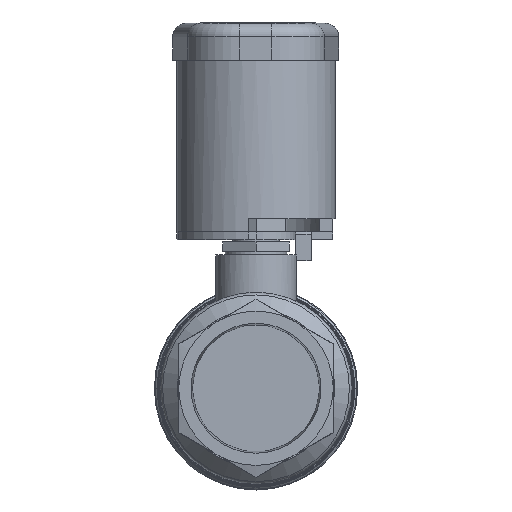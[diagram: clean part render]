
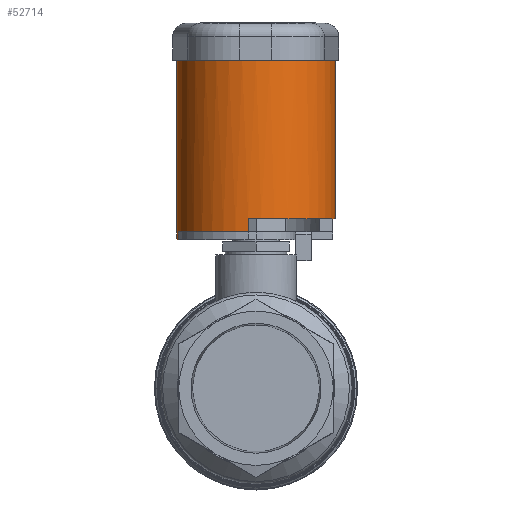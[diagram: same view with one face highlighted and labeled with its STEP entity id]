
A CAD part, left-side view. The second image highlights one B-rep face of the part: STEP entity #52714.
In plain terms, the highlighted cylindrical face has radius 1.11 mm (diameter 2.221 mm), a partial arc.
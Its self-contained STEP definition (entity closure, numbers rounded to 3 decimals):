
#52714 = ADVANCED_FACE('',(#52715),#52729,.T.);
#52715 = FACE_BOUND('',#52716,.T.);
#52716 = EDGE_LOOP('',(#52717,#52762,#52779,#52795,#52812,#52828,#52845,
    #52861,#52878,#52894));
#52717 = ORIENTED_EDGE('',*,*,#52718,.F.);
#52718 = EDGE_CURVE('',#52719,#52721,#52723,.T.);
#52719 = VERTEX_POINT('',#52720);
#52720 = CARTESIAN_POINT('',(2.084,1.11,2.195
    ));
#52721 = VERTEX_POINT('',#52722);
#52722 = CARTESIAN_POINT('',(2.084,1.11,
    4.601));
#52723 = SURFACE_CURVE('',#52724,(#52728),.PCURVE_S1.);
#52724 = LINE('',#52725,#52726);
#52725 = CARTESIAN_POINT('',(2.084,1.11,2.195
    ));
#52726 = VECTOR('',#52727,1.);
#52727 = DIRECTION('',(0.,0.,1.));
#52728 = PCURVE('',#52729,#52734);
#52729 = CYLINDRICAL_SURFACE('',#52730,1.11);
#52730 = AXIS2_PLACEMENT_3D('',#52731,#52732,#52733);
#52731 = CARTESIAN_POINT('',(2.084,0.,
    2.195));
#52732 = DIRECTION('',(0.,0.,1.));
#52733 = DIRECTION('',(0.,1.,0.));
#52734 = DEFINITIONAL_REPRESENTATION('',(#52735),#52761);
#52735 = B_SPLINE_CURVE_WITH_KNOTS('',3,(#52736,#52737,#52738,#52739,
    #52740,#52741,#52742,#52743,#52744,#52745,#52746,#52747,#52748,
    #52749,#52750,#52751,#52752,#52753,#52754,#52755,#52756,#52757,
    #52758,#52759,#52760),.UNSPECIFIED.,.F.,.F.,(4,1,1,1,1,1,1,1,1,1,1,1
    ,1,1,1,1,1,1,1,1,1,1,4),(0.,0.109,0.219,
    0.328,0.437,0.547,0.656,
    0.766,0.875,0.984,1.094,
    1.203,1.312,1.422,1.531,
    1.64,1.75,1.859,1.968,
    2.078,2.187,2.297,2.406),
  .QUASI_UNIFORM_KNOTS.);
#52736 = CARTESIAN_POINT('',(0.,0.));
#52737 = CARTESIAN_POINT('',(0.,0.036));
#52738 = CARTESIAN_POINT('',(0.,0.109));
#52739 = CARTESIAN_POINT('',(0.,0.219));
#52740 = CARTESIAN_POINT('',(0.,0.328));
#52741 = CARTESIAN_POINT('',(0.,0.437));
#52742 = CARTESIAN_POINT('',(0.,0.547));
#52743 = CARTESIAN_POINT('',(0.,0.656));
#52744 = CARTESIAN_POINT('',(0.,0.766));
#52745 = CARTESIAN_POINT('',(0.,0.875));
#52746 = CARTESIAN_POINT('',(0.,0.984));
#52747 = CARTESIAN_POINT('',(0.,1.094));
#52748 = CARTESIAN_POINT('',(0.,1.203));
#52749 = CARTESIAN_POINT('',(0.,1.312));
#52750 = CARTESIAN_POINT('',(0.,1.422));
#52751 = CARTESIAN_POINT('',(0.,1.531));
#52752 = CARTESIAN_POINT('',(0.,1.64));
#52753 = CARTESIAN_POINT('',(0.,1.75));
#52754 = CARTESIAN_POINT('',(0.,1.859));
#52755 = CARTESIAN_POINT('',(0.,1.968));
#52756 = CARTESIAN_POINT('',(0.,2.078));
#52757 = CARTESIAN_POINT('',(0.,2.187));
#52758 = CARTESIAN_POINT('',(0.,2.297));
#52759 = CARTESIAN_POINT('',(0.,2.369));
#52760 = CARTESIAN_POINT('',(0.,2.406));
#52761 = ( GEOMETRIC_REPRESENTATION_CONTEXT(2) 
PARAMETRIC_REPRESENTATION_CONTEXT() REPRESENTATION_CONTEXT('2D SPACE',''
  ) );
#52762 = ORIENTED_EDGE('',*,*,#52763,.T.);
#52763 = EDGE_CURVE('',#52719,#52764,#52766,.T.);
#52764 = VERTEX_POINT('',#52765);
#52765 = CARTESIAN_POINT('',(2.276,1.093,2.195
    ));
#52766 = SURFACE_CURVE('',#52767,(#52772),.PCURVE_S1.);
#52767 = CIRCLE('',#52768,1.11);
#52768 = AXIS2_PLACEMENT_3D('',#52769,#52770,#52771);
#52769 = CARTESIAN_POINT('',(2.084,0.,
    2.195));
#52770 = DIRECTION('',(0.,0.,-1.));
#52771 = DIRECTION('',(0.,1.,0.));
#52772 = PCURVE('',#52729,#52773);
#52773 = DEFINITIONAL_REPRESENTATION('',(#52774),#52778);
#52774 = LINE('',#52775,#52776);
#52775 = CARTESIAN_POINT('',(0.,0.));
#52776 = VECTOR('',#52777,1.);
#52777 = DIRECTION('',(-1.,0.));
#52778 = ( GEOMETRIC_REPRESENTATION_CONTEXT(2) 
PARAMETRIC_REPRESENTATION_CONTEXT() REPRESENTATION_CONTEXT('2D SPACE',''
  ) );
#52779 = ORIENTED_EDGE('',*,*,#52780,.T.);
#52780 = EDGE_CURVE('',#52764,#52781,#52783,.T.);
#52781 = VERTEX_POINT('',#52782);
#52782 = CARTESIAN_POINT('',(2.276,1.093,2.084));
#52783 = SURFACE_CURVE('',#52784,(#52788),.PCURVE_S1.);
#52784 = LINE('',#52785,#52786);
#52785 = CARTESIAN_POINT('',(2.276,1.093,2.195
    ));
#52786 = VECTOR('',#52787,1.);
#52787 = DIRECTION('',(0.,0.,-1.));
#52788 = PCURVE('',#52729,#52789);
#52789 = DEFINITIONAL_REPRESENTATION('',(#52790),#52794);
#52790 = LINE('',#52791,#52792);
#52791 = CARTESIAN_POINT('',(-0.175,0.));
#52792 = VECTOR('',#52793,1.);
#52793 = DIRECTION('',(0.,-1.));
#52794 = ( GEOMETRIC_REPRESENTATION_CONTEXT(2) 
PARAMETRIC_REPRESENTATION_CONTEXT() REPRESENTATION_CONTEXT('2D SPACE',''
  ) );
#52795 = ORIENTED_EDGE('',*,*,#52796,.F.);
#52796 = EDGE_CURVE('',#52797,#52781,#52799,.T.);
#52797 = VERTEX_POINT('',#52798);
#52798 = CARTESIAN_POINT('',(1.891,1.093,2.084));
#52799 = SURFACE_CURVE('',#52800,(#52805),.PCURVE_S1.);
#52800 = CIRCLE('',#52801,1.11);
#52801 = AXIS2_PLACEMENT_3D('',#52802,#52803,#52804);
#52802 = CARTESIAN_POINT('',(2.084,0.,2.084)
  );
#52803 = DIRECTION('',(0.,0.,-1.));
#52804 = DIRECTION('',(-0.174,0.985,0.
    ));
#52805 = PCURVE('',#52729,#52806);
#52806 = DEFINITIONAL_REPRESENTATION('',(#52807),#52811);
#52807 = LINE('',#52808,#52809);
#52808 = CARTESIAN_POINT('',(0.175,-0.111));
#52809 = VECTOR('',#52810,1.);
#52810 = DIRECTION('',(-1.,0.));
#52811 = ( GEOMETRIC_REPRESENTATION_CONTEXT(2) 
PARAMETRIC_REPRESENTATION_CONTEXT() REPRESENTATION_CONTEXT('2D SPACE',''
  ) );
#52812 = ORIENTED_EDGE('',*,*,#52813,.F.);
#52813 = EDGE_CURVE('',#52814,#52797,#52816,.T.);
#52814 = VERTEX_POINT('',#52815);
#52815 = CARTESIAN_POINT('',(1.891,1.093,2.195
    ));
#52816 = SURFACE_CURVE('',#52817,(#52821),.PCURVE_S1.);
#52817 = LINE('',#52818,#52819);
#52818 = CARTESIAN_POINT('',(1.891,1.093,2.195
    ));
#52819 = VECTOR('',#52820,1.);
#52820 = DIRECTION('',(0.,0.,-1.));
#52821 = PCURVE('',#52729,#52822);
#52822 = DEFINITIONAL_REPRESENTATION('',(#52823),#52827);
#52823 = LINE('',#52824,#52825);
#52824 = CARTESIAN_POINT('',(0.175,0.));
#52825 = VECTOR('',#52826,1.);
#52826 = DIRECTION('',(0.,-1.));
#52827 = ( GEOMETRIC_REPRESENTATION_CONTEXT(2) 
PARAMETRIC_REPRESENTATION_CONTEXT() REPRESENTATION_CONTEXT('2D SPACE',''
  ) );
#52828 = ORIENTED_EDGE('',*,*,#52829,.T.);
#52829 = EDGE_CURVE('',#52814,#52830,#52832,.T.);
#52830 = VERTEX_POINT('',#52831);
#52831 = CARTESIAN_POINT('',(0.979,0.111,
    2.195));
#52832 = SURFACE_CURVE('',#52833,(#52838),.PCURVE_S1.);
#52833 = CIRCLE('',#52834,1.11);
#52834 = AXIS2_PLACEMENT_3D('',#52835,#52836,#52837);
#52835 = CARTESIAN_POINT('',(2.084,0.,
    2.195));
#52836 = DIRECTION('',(0.,0.,1.));
#52837 = DIRECTION('',(-0.174,0.985,0.
    ));
#52838 = PCURVE('',#52729,#52839);
#52839 = DEFINITIONAL_REPRESENTATION('',(#52840),#52844);
#52840 = LINE('',#52841,#52842);
#52841 = CARTESIAN_POINT('',(0.175,0.));
#52842 = VECTOR('',#52843,1.);
#52843 = DIRECTION('',(1.,0.));
#52844 = ( GEOMETRIC_REPRESENTATION_CONTEXT(2) 
PARAMETRIC_REPRESENTATION_CONTEXT() REPRESENTATION_CONTEXT('2D SPACE',''
  ) );
#52845 = ORIENTED_EDGE('',*,*,#52846,.T.);
#52846 = EDGE_CURVE('',#52830,#52847,#52849,.T.);
#52847 = VERTEX_POINT('',#52848);
#52848 = CARTESIAN_POINT('',(0.979,0.111,
    2.38));
#52849 = SURFACE_CURVE('',#52850,(#52854),.PCURVE_S1.);
#52850 = LINE('',#52851,#52852);
#52851 = CARTESIAN_POINT('',(0.979,0.111,
    2.195));
#52852 = VECTOR('',#52853,1.);
#52853 = DIRECTION('',(0.,0.,1.));
#52854 = PCURVE('',#52729,#52855);
#52855 = DEFINITIONAL_REPRESENTATION('',(#52856),#52860);
#52856 = LINE('',#52857,#52858);
#52857 = CARTESIAN_POINT('',(1.471,0.));
#52858 = VECTOR('',#52859,1.);
#52859 = DIRECTION('',(0.,1.));
#52860 = ( GEOMETRIC_REPRESENTATION_CONTEXT(2) 
PARAMETRIC_REPRESENTATION_CONTEXT() REPRESENTATION_CONTEXT('2D SPACE',''
  ) );
#52861 = ORIENTED_EDGE('',*,*,#52862,.T.);
#52862 = EDGE_CURVE('',#52847,#52863,#52865,.T.);
#52863 = VERTEX_POINT('',#52864);
#52864 = CARTESIAN_POINT('',(2.084,-1.111,2.38
    ));
#52865 = SURFACE_CURVE('',#52866,(#52871),.PCURVE_S1.);
#52866 = CIRCLE('',#52867,1.11);
#52867 = AXIS2_PLACEMENT_3D('',#52868,#52869,#52870);
#52868 = CARTESIAN_POINT('',(2.084,0.,
    2.38));
#52869 = DIRECTION('',(0.,0.,1.));
#52870 = DIRECTION('',(-0.995,0.1,0.));
#52871 = PCURVE('',#52729,#52872);
#52872 = DEFINITIONAL_REPRESENTATION('',(#52873),#52877);
#52873 = LINE('',#52874,#52875);
#52874 = CARTESIAN_POINT('',(1.471,0.185));
#52875 = VECTOR('',#52876,1.);
#52876 = DIRECTION('',(1.,0.));
#52877 = ( GEOMETRIC_REPRESENTATION_CONTEXT(2) 
PARAMETRIC_REPRESENTATION_CONTEXT() REPRESENTATION_CONTEXT('2D SPACE',''
  ) );
#52878 = ORIENTED_EDGE('',*,*,#52879,.T.);
#52879 = EDGE_CURVE('',#52863,#52880,#52882,.T.);
#52880 = VERTEX_POINT('',#52881);
#52881 = CARTESIAN_POINT('',(2.084,-1.111,4.601
    ));
#52882 = SURFACE_CURVE('',#52883,(#52887),.PCURVE_S1.);
#52883 = LINE('',#52884,#52885);
#52884 = CARTESIAN_POINT('',(2.084,-1.111,2.38
    ));
#52885 = VECTOR('',#52886,1.);
#52886 = DIRECTION('',(0.,0.,1.));
#52887 = PCURVE('',#52729,#52888);
#52888 = DEFINITIONAL_REPRESENTATION('',(#52889),#52893);
#52889 = LINE('',#52890,#52891);
#52890 = CARTESIAN_POINT('',(3.142,0.185));
#52891 = VECTOR('',#52892,1.);
#52892 = DIRECTION('',(0.,1.));
#52893 = ( GEOMETRIC_REPRESENTATION_CONTEXT(2) 
PARAMETRIC_REPRESENTATION_CONTEXT() REPRESENTATION_CONTEXT('2D SPACE',''
  ) );
#52894 = ORIENTED_EDGE('',*,*,#52895,.F.);
#52895 = EDGE_CURVE('',#52721,#52880,#52896,.T.);
#52896 = SURFACE_CURVE('',#52897,(#52902),.PCURVE_S1.);
#52897 = CIRCLE('',#52898,1.11);
#52898 = AXIS2_PLACEMENT_3D('',#52899,#52900,#52901);
#52899 = CARTESIAN_POINT('',(2.084,0.,
    4.601));
#52900 = DIRECTION('',(0.,0.,1.));
#52901 = DIRECTION('',(0.,1.,0.));
#52902 = PCURVE('',#52729,#52903);
#52903 = DEFINITIONAL_REPRESENTATION('',(#52904),#52908);
#52904 = LINE('',#52905,#52906);
#52905 = CARTESIAN_POINT('',(0.,2.406));
#52906 = VECTOR('',#52907,1.);
#52907 = DIRECTION('',(1.,0.));
#52908 = ( GEOMETRIC_REPRESENTATION_CONTEXT(2) 
PARAMETRIC_REPRESENTATION_CONTEXT() REPRESENTATION_CONTEXT('2D SPACE',''
  ) );
